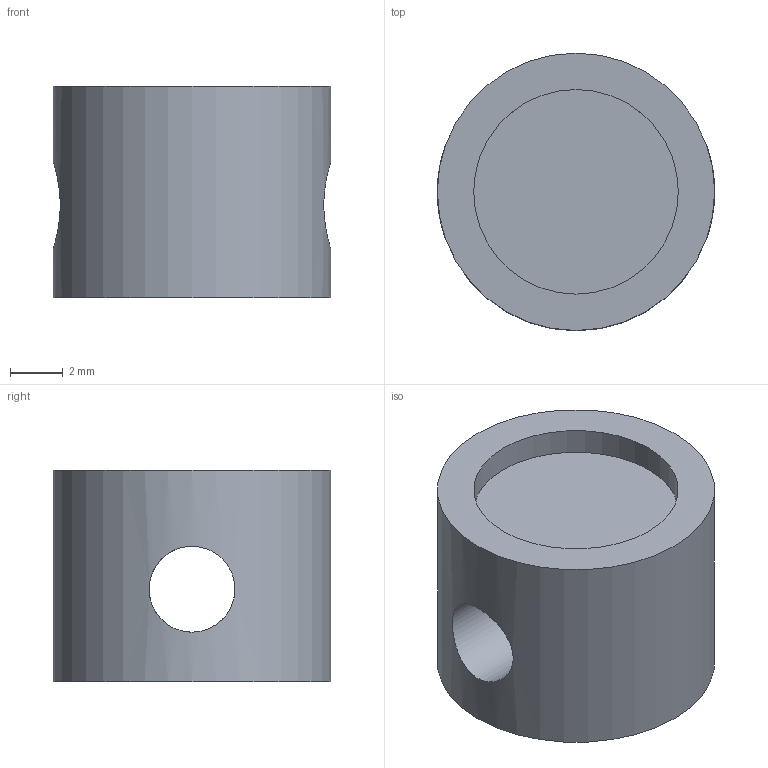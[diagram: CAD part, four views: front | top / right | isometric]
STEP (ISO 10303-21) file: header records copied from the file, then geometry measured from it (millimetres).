
FILE_DESCRIPTION( ( '' ), ' ' );
FILE_NAME( '/vol/tmp/translate-741527877376424777/5dc6e38194333712756289ff.step', '2019-11-09T16:04:17', ( '' ), ( '' ), ' ', ' ', ' ' );
FILE_SCHEMA( ( 'AUTOMOTIVE_DESIGN { 1 0 10303 214 1 1 1 1 }' ) );
Length unit declared in the file: metre
Products named in the file (1): Part 1
Bounding box: 10.5 x 10.5 x 8 mm (x, y, z)
Volume: 559.5 mm3; surface area: 549.2 mm2
Topology: 1 solids, 1 shells, 6 faces, 11 edges, 7 vertices
Faces by surface type: plane 3, cylinder 3
Full cylindrical faces by diameter (mm): 3.25 x1, 7.75 x1, 10.5 x1
Entity records: 292 total; most frequent: CARTESIAN_POINT 125, DIRECTION 22, EDGE_LOOP 12, ORIENTED_EDGE 12, AXIS2_PLACEMENT_3D 11, FACE_OUTER_BOUND 9, STYLED_ITEM 6, PRESENTATION_STYLE_ASSIGNMENT 6
